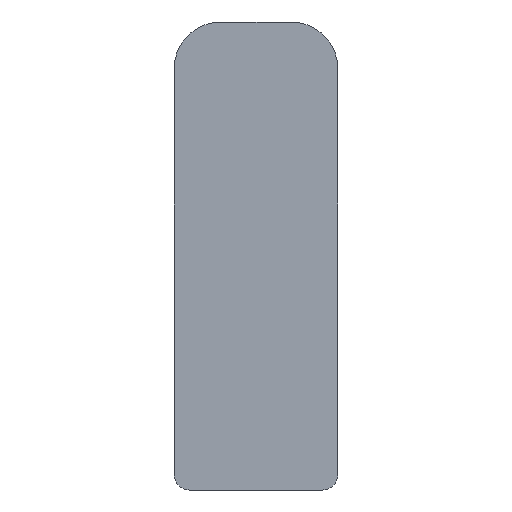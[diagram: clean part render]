
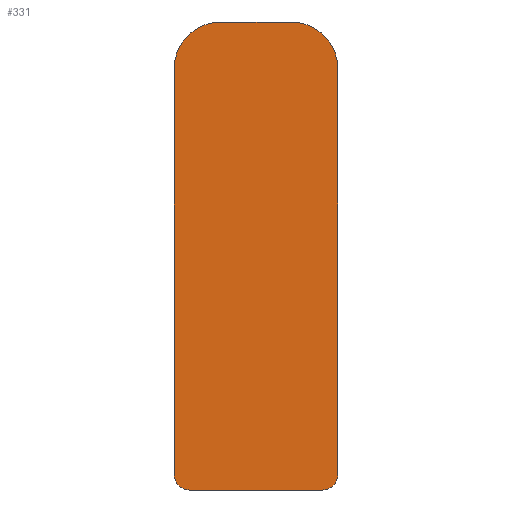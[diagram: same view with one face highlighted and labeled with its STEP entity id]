
A CAD part, left-side view. The second image highlights one B-rep face of the part: STEP entity #331.
In plain terms, the highlighted planar face has unit normal (-1, 0, 0).
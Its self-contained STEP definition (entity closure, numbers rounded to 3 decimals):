
#1 = VECTOR ( 'NONE', #305, 1000. ) ;
#2 = LINE ( 'NONE', #306, #1 ) ;
#6 = ORIENTED_EDGE ( 'NONE', *, *, #106, .T. ) ;
#7 = CIRCLE ( 'NONE', #85, 3. ) ;
#11 = ORIENTED_EDGE ( 'NONE', *, *, #111, .T. ) ;
#12 = ORIENTED_EDGE ( 'NONE', *, *, #109, .T. ) ;
#24 = CIRCLE ( 'NONE', #87, 3. ) ;
#30 = EDGE_LOOP ( 'NONE', ( #77, #78, #79, #80, #81, #6, #12, #11 ) ) ;
#40 = VECTOR ( 'NONE', #269, 1000. ) ;
#41 = LINE ( 'NONE', #272, #40 ) ;
#77 = ORIENTED_EDGE ( 'NONE', *, *, #92, .T. ) ;
#78 = ORIENTED_EDGE ( 'NONE', *, *, #89, .T. ) ;
#79 = ORIENTED_EDGE ( 'NONE', *, *, #98, .T. ) ;
#80 = ORIENTED_EDGE ( 'NONE', *, *, #101, .T. ) ;
#81 = ORIENTED_EDGE ( 'NONE', *, *, #104, .T. ) ;
#83 = AXIS2_PLACEMENT_3D ( 'NONE', #297, #295, #294 ) ;
#85 = AXIS2_PLACEMENT_3D ( 'NONE', #316, #314, #313 ) ;
#87 = AXIS2_PLACEMENT_3D ( 'NONE', #217, #214, #209 ) ;
#89 = EDGE_CURVE ( 'NONE', #276, #310, #41, .T. ) ;
#92 = EDGE_CURVE ( 'NONE', #292, #276, #24, .T. ) ;
#98 = EDGE_CURVE ( 'NONE', #310, #324, #7, .T. ) ;
#101 = EDGE_CURVE ( 'NONE', #324, #326, #2, .T. ) ;
#104 = EDGE_CURVE ( 'NONE', #326, #304, #179, .T. ) ;
#106 = EDGE_CURVE ( 'NONE', #304, #307, #176, .T. ) ;
#109 = EDGE_CURVE ( 'NONE', #307, #291, #146, .T. ) ;
#111 = EDGE_CURVE ( 'NONE', #291, #292, #144, .T. ) ;
#132 = FACE_OUTER_BOUND ( 'NONE', #30, .T. ) ;
#143 = VECTOR ( 'NONE', #270, 1000. ) ;
#144 = LINE ( 'NONE', #271, #143 ) ;
#146 = CIRCLE ( 'NONE', #169, 1. ) ;
#161 = AXIS2_PLACEMENT_3D ( 'NONE', #231, #230, #228 ) ;
#169 = AXIS2_PLACEMENT_3D ( 'NONE', #278, #277, #275 ) ;
#176 = LINE ( 'NONE', #289, #177 ) ;
#177 = VECTOR ( 'NONE', #287, 1000. ) ;
#179 = CIRCLE ( 'NONE', #83, 1. ) ;
#209 = DIRECTION ( 'NONE',  ( 0., 0., 1. ) ) ;
#214 = DIRECTION ( 'NONE',  ( -1., 0., 0. ) ) ;
#217 = CARTESIAN_POINT ( 'NONE',  ( -206.25, -2.25, 27. ) ) ;
#228 = DIRECTION ( 'NONE',  ( 0., 0., 1. ) ) ;
#230 = DIRECTION ( 'NONE',  ( -1., 0., 0. ) ) ;
#231 = CARTESIAN_POINT ( 'NONE',  ( -206.25, -2.25, 27. ) ) ;
#232 = PLANE ( 'NONE',  #161 ) ;
#243 = CARTESIAN_POINT ( 'NONE',  ( -206.25, 5.25, 1. ) ) ;
#244 = CARTESIAN_POINT ( 'NONE',  ( -206.25, 5.25, 27. ) ) ;
#247 = CARTESIAN_POINT ( 'NONE',  ( -206.25, 2.25, 30. ) ) ;
#248 = CARTESIAN_POINT ( 'NONE',  ( -206.25, -4.25, 0. ) ) ;
#249 = CARTESIAN_POINT ( 'NONE',  ( -206.25, 4.25, 0. ) ) ;
#252 = CARTESIAN_POINT ( 'NONE',  ( -206.25, -5.25, 27. ) ) ;
#253 = CARTESIAN_POINT ( 'NONE',  ( -206.25, -5.25, 1. ) ) ;
#258 = CARTESIAN_POINT ( 'NONE',  ( -206.25, -2.25, 30. ) ) ;
#269 = DIRECTION ( 'NONE',  ( 0., 1., 0. ) ) ;
#270 = DIRECTION ( 'NONE',  ( 0., 0., 1. ) ) ;
#271 = CARTESIAN_POINT ( 'NONE',  ( -206.25, -5.25, 1. ) ) ;
#272 = CARTESIAN_POINT ( 'NONE',  ( -206.25, -2.25, 30. ) ) ;
#275 = DIRECTION ( 'NONE',  ( 0., 0., -1. ) ) ;
#276 = VERTEX_POINT ( 'NONE', #258 ) ;
#277 = DIRECTION ( 'NONE',  ( -1., 0., 0. ) ) ;
#278 = CARTESIAN_POINT ( 'NONE',  ( -206.25, -4.25, 1. ) ) ;
#287 = DIRECTION ( 'NONE',  ( 0., -1., 0. ) ) ;
#289 = CARTESIAN_POINT ( 'NONE',  ( -206.25, -4.25, 0. ) ) ;
#291 = VERTEX_POINT ( 'NONE', #253 ) ;
#292 = VERTEX_POINT ( 'NONE', #252 ) ;
#294 = DIRECTION ( 'NONE',  ( 0., 0., -1. ) ) ;
#295 = DIRECTION ( 'NONE',  ( -1., 0., 0. ) ) ;
#297 = CARTESIAN_POINT ( 'NONE',  ( -206.25, 4.25, 1. ) ) ;
#304 = VERTEX_POINT ( 'NONE', #249 ) ;
#305 = DIRECTION ( 'NONE',  ( 0., 0., -1. ) ) ;
#306 = CARTESIAN_POINT ( 'NONE',  ( -206.25, 5.25, 1. ) ) ;
#307 = VERTEX_POINT ( 'NONE', #248 ) ;
#310 = VERTEX_POINT ( 'NONE', #247 ) ;
#313 = DIRECTION ( 'NONE',  ( 0., 0., -1. ) ) ;
#314 = DIRECTION ( 'NONE',  ( -1., 0., 0. ) ) ;
#316 = CARTESIAN_POINT ( 'NONE',  ( -206.25, 2.25, 27. ) ) ;
#324 = VERTEX_POINT ( 'NONE', #244 ) ;
#326 = VERTEX_POINT ( 'NONE', #243 ) ;
#331 = ADVANCED_FACE ( 'NONE', ( #132 ), #232, .T. ) ;
